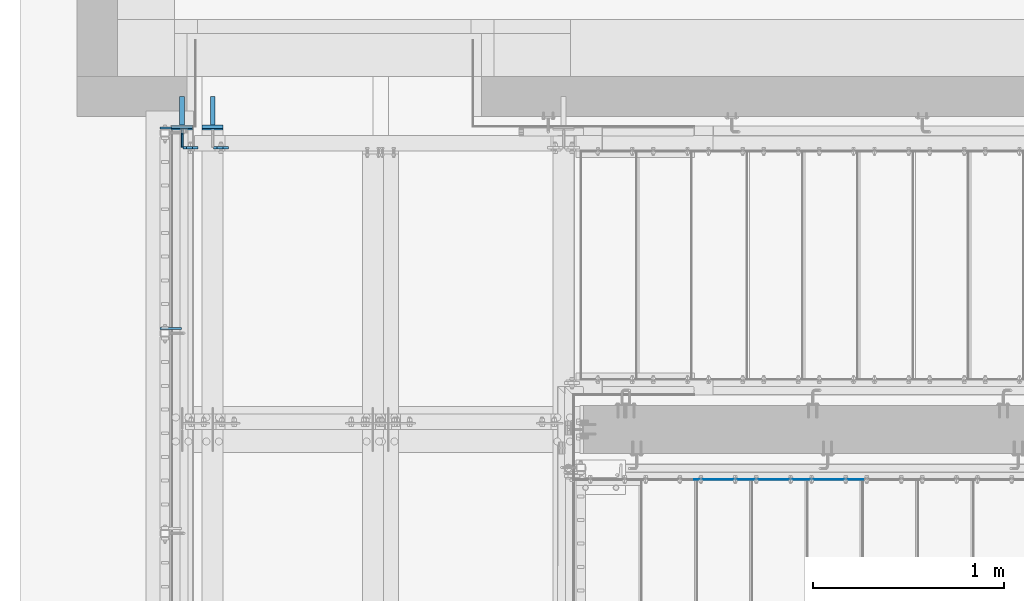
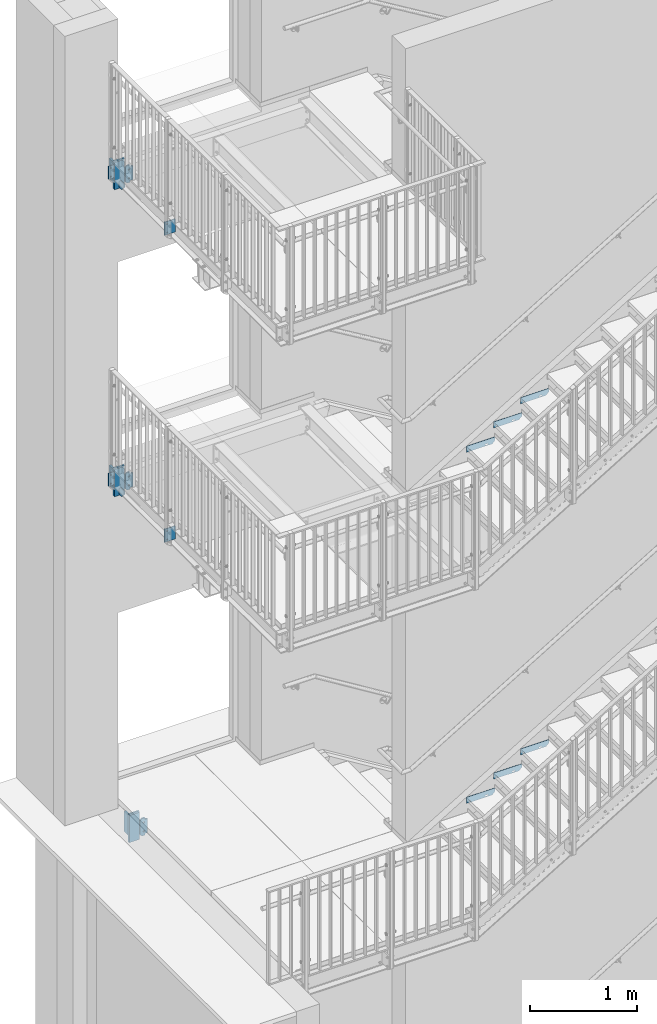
# One storey, part 55 of 410: 21 plates, 45 openings.
"""IFC2X3 building model written with IfcOpenShell, lengths in millimetres."""

from ifc_helpers import new_model, entity, si_unit, converted_unit, point, frame, frame_2d, origin, origin_with_axes, origin_2d_with_axis, place, context, project, spatial, polyline, circle_curve, line_curve, trimmed, segment, composite_curve, circle, outline, extrude, material, layer, layer_set, element, save


model = new_model("IFC2X3")

# Units and contexts
model_context = context("Model", 3, precision=1e-09, world=origin_with_axes())
ifc_project = project(units=[si_unit("LENGTHUNIT", "METRE", prefix="MILLI"), si_unit("AREAUNIT", "SQUARE_METRE"), si_unit("VOLUMEUNIT", "CUBIC_METRE"), converted_unit("PLANEANGLEUNIT", "DEGREE", entity("IfcPlaneAngleMeasure", 0.01745329), si_unit("PLANEANGLEUNIT", "RADIAN"), dimensions=[0, 0, 0, 0, 0, 0, 0])], contexts=[model_context])

# Site, building, storey
site_placement = place(None, origin_with_axes())
site = spatial("IfcSite", under=ifc_project, at=site_placement, Name="mKR Teilneubau & Sanierung BA1 - Ostfildern", CompositionType="ELEMENT")
building_placement = place(site_placement, origin_with_axes())
building = spatial("IfcBuilding", under=site, at=building_placement, Name="Struktur 1", CompositionType="ELEMENT")
storey_placement = place(building_placement, origin_with_axes())
storey = spatial("IfcBuildingStorey", under=building, at=storey_placement, Name="Default Storey", CompositionType="ELEMENT", Elevation=0.0)

# Plate, openings
ifc_material = material(Name="S235JR")
ifc_layer_1 = layer(ifc_material, 3.0)
ifc_layer_set_1 = layer_set([ifc_layer_1], Name="S235JR")
plate_1_placement = place(None, frame((-1125.0, 16719.999999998, 347.826087), z_axis=(0.0, -1.0, 0.0), x_axis=(0.0, 0.0, -1.0)))
plate_1 = element("IfcPlate", 1, at=plate_1_placement, inside=storey, material=ifc_layer_set_1, Name="Grate_Step#2", ObjectType="Grate_Step#2", context=model_context, shape_type="SweptSolid", body=[
    extrude(outline(polyline([(0.0, 0.0), (70.0, 0.0), (70.0, 275.0), (40.0, 305.0), (0.0, 305.0), (0.0, 0.0)])), origin_with_axes(), (0.0, 0.0, 1.0), 3.0),
])
opening_1_placement = place(plate_1_placement, frame((55.0, 215.0, 3.5), z_axis=(0.0, 0.0, -1.0), x_axis=(0.0, 1.0, 0.0)))
element("IfcOpeningElement", 2, at=opening_1_placement, cuts=plate_1, ObjectType="Opening", context=model_context, shape_type="SweptSolid", body=[
    extrude(outline(composite_curve([segment(trimmed(line_curve((-9.5, -7.001), (1.0, 0.0), 19.0), [point((-9.5, -7.001))], [point((9.5, -7.001))], True, "CARTESIAN"), True, "CONTINUOUS"), segment(trimmed(circle_curve(frame_2d((9.5, 0.0), x_axis=(1.0, 0.0)), 7.001), [point((9.5, -7.001))], [point((9.5, 7.001))], True, "CARTESIAN"), True, "CONTINUOUS"), segment(trimmed(line_curve((9.5, 7.001), (-1.0, 0.0), 19.0), [point((9.5, 7.001))], [point((-9.5, 7.001))], True, "CARTESIAN"), True, "CONTINUOUS"), segment(trimmed(circle_curve(frame_2d((-9.5, 0.0), x_axis=(1.0, 0.0)), 7.001), [point((-9.5, 7.001))], [point((-9.5, -7.001))], True, "CARTESIAN"), True, "CONTINUOUS")], self_intersect=False)), origin(), (0.0, 0.0, 1.0), 4.0),
])
opening_2_placement = place(plate_1_placement, frame((55.0, 35.0, 3.5), z_axis=(0.0, 0.0, -1.0), x_axis=(0.0, 1.0, 0.0)))
element("IfcOpeningElement", 3, at=opening_2_placement, cuts=plate_1, ObjectType="Opening", context=model_context, shape_type="SweptSolid", body=[
    extrude(circle(Radius=7.001, at=origin_2d_with_axis()), origin(), (0.0, 0.0, 1.0), 4.0),
])

plate_2_placement = place(None, frame((-835.0, 16719.999999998, 521.7391305), z_axis=(0.0, -1.0, 0.0), x_axis=(0.0, 0.0, -1.0)))
plate_2 = element("IfcPlate", 4, at=plate_2_placement, inside=storey, material=ifc_layer_set_1, Name="Grate_Step#2", ObjectType="Grate_Step#2", context=model_context, shape_type="SweptSolid", body=[
    extrude(outline(polyline([(0.0, 0.0), (70.0, 0.0), (70.0, 275.0), (40.0, 305.0), (0.0, 305.0), (0.0, 0.0)])), origin_with_axes(), (0.0, 0.0, 1.0), 3.0),
])
opening_3_placement = place(plate_2_placement, frame((55.0, 35.0, 3.5), z_axis=(0.0, 0.0, -1.0), x_axis=(0.0, 1.0, 0.0)))
element("IfcOpeningElement", 5, at=opening_3_placement, cuts=plate_2, ObjectType="Opening", context=model_context, shape_type="SweptSolid", body=[
    extrude(circle(Radius=7.001, at=origin_2d_with_axis()), origin(), (0.0, 0.0, 1.0), 4.0),
])
opening_4_placement = place(plate_2_placement, frame((55.0, 215.0, 3.5), z_axis=(0.0, 0.0, -1.0), x_axis=(0.0, 1.0, 0.0)))
element("IfcOpeningElement", 6, at=opening_4_placement, cuts=plate_2, ObjectType="Opening", context=model_context, shape_type="SweptSolid", body=[
    extrude(outline(composite_curve([segment(trimmed(line_curve((-9.5, -7.001), (1.0, 0.0), 19.0), [point((-9.5, -7.001))], [point((9.5, -7.001))], True, "CARTESIAN"), True, "CONTINUOUS"), segment(trimmed(circle_curve(frame_2d((9.5, 0.0), x_axis=(1.0, 0.0)), 7.001), [point((9.5, -7.001))], [point((9.5, 7.001))], True, "CARTESIAN"), True, "CONTINUOUS"), segment(trimmed(line_curve((9.5, 7.001), (-1.0, 0.0), 19.0), [point((9.5, 7.001))], [point((-9.5, 7.001))], True, "CARTESIAN"), True, "CONTINUOUS"), segment(trimmed(circle_curve(frame_2d((-9.5, 0.0), x_axis=(1.0, 0.0)), 7.001), [point((-9.5, 7.001))], [point((-9.5, -7.001))], True, "CARTESIAN"), True, "CONTINUOUS")], self_intersect=False)), origin(), (0.0, 0.0, 1.0), 4.0),
])

plate_3_placement = place(None, frame((-545.0, 16719.999999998, 695.652174), z_axis=(0.0, -1.0, 0.0), x_axis=(0.0, 0.0, -1.0)))
plate_3 = element("IfcPlate", 7, at=plate_3_placement, inside=storey, material=ifc_layer_set_1, Name="Grate_Step#2", ObjectType="Grate_Step#2", context=model_context, shape_type="SweptSolid", body=[
    extrude(outline(polyline([(0.0, 0.0), (70.0, 0.0), (70.0, 275.0), (40.0, 305.0), (0.0, 305.0), (0.0, 0.0)])), origin_with_axes(), (0.0, 0.0, 1.0), 3.0),
])
opening_5_placement = place(plate_3_placement, frame((55.0, 35.0, 3.5), z_axis=(0.0, 0.0, -1.0), x_axis=(0.0, 1.0, 0.0)))
element("IfcOpeningElement", 8, at=opening_5_placement, cuts=plate_3, ObjectType="Opening", context=model_context, shape_type="SweptSolid", body=[
    extrude(circle(Radius=7.001, at=origin_2d_with_axis()), origin(), (0.0, 0.0, 1.0), 4.0),
])
opening_6_placement = place(plate_3_placement, frame((55.0, 215.0, 3.5), z_axis=(0.0, 0.0, -1.0), x_axis=(0.0, 1.0, 0.0)))
element("IfcOpeningElement", 9, at=opening_6_placement, cuts=plate_3, ObjectType="Opening", context=model_context, shape_type="SweptSolid", body=[
    extrude(outline(composite_curve([segment(trimmed(line_curve((-9.5, -7.001), (1.0, 0.0), 19.0), [point((-9.5, -7.001))], [point((9.5, -7.001))], True, "CARTESIAN"), True, "CONTINUOUS"), segment(trimmed(circle_curve(frame_2d((9.5, 0.0), x_axis=(1.0, 0.0)), 7.001), [point((9.5, -7.001))], [point((9.5, 7.001))], True, "CARTESIAN"), True, "CONTINUOUS"), segment(trimmed(line_curve((9.5, 7.001), (-1.0, 0.0), 19.0), [point((9.5, 7.001))], [point((-9.5, 7.001))], True, "CARTESIAN"), True, "CONTINUOUS"), segment(trimmed(circle_curve(frame_2d((-9.5, 0.0), x_axis=(1.0, 0.0)), 7.001), [point((-9.5, 7.001))], [point((-9.5, -7.001))], True, "CARTESIAN"), True, "CONTINUOUS")], self_intersect=False)), origin(), (0.0, 0.0, 1.0), 4.0),
])

plate_4_placement = place(None, frame((-1125.0, 16719.999999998, 4350.0), z_axis=(0.0, -1.0, 0.0), x_axis=(0.0, 0.0, -1.0)))
plate_4 = element("IfcPlate", 10, at=plate_4_placement, inside=storey, material=ifc_layer_set_1, Name="Grate_Step#2", ObjectType="Grate_Step#2", context=model_context, shape_type="SweptSolid", body=[
    extrude(outline(polyline([(0.0, 0.0), (70.0, 0.0), (70.0, 275.0), (40.0, 305.0), (0.0, 305.0), (0.0, 0.0)])), origin_with_axes(), (0.0, 0.0, 1.0), 3.0),
])
opening_7_placement = place(plate_4_placement, frame((55.0, 35.0, 3.5), z_axis=(0.0, 0.0, -1.0), x_axis=(0.0, 1.0, 0.0)))
element("IfcOpeningElement", 11, at=opening_7_placement, cuts=plate_4, ObjectType="Opening", context=model_context, shape_type="SweptSolid", body=[
    extrude(circle(Radius=7.001, at=origin_2d_with_axis()), origin(), (0.0, 0.0, 1.0), 4.0),
])
opening_8_placement = place(plate_4_placement, frame((55.0, 215.0, 3.5), z_axis=(0.0, 0.0, -1.0), x_axis=(0.0, 1.0, 0.0)))
element("IfcOpeningElement", 12, at=opening_8_placement, cuts=plate_4, ObjectType="Opening", context=model_context, shape_type="SweptSolid", body=[
    extrude(outline(composite_curve([segment(trimmed(line_curve((-9.5, -7.001), (1.0, 0.0), 19.0), [point((-9.5, -7.001))], [point((9.5, -7.001))], True, "CARTESIAN"), True, "CONTINUOUS"), segment(trimmed(circle_curve(frame_2d((9.5, 0.0), x_axis=(1.0, 0.0)), 7.001), [point((9.5, -7.001))], [point((9.5, 7.001))], True, "CARTESIAN"), True, "CONTINUOUS"), segment(trimmed(line_curve((9.5, 7.001), (-1.0, 0.0), 19.0), [point((9.5, 7.001))], [point((-9.5, 7.001))], True, "CARTESIAN"), True, "CONTINUOUS"), segment(trimmed(circle_curve(frame_2d((-9.5, 0.0), x_axis=(1.0, 0.0)), 7.001), [point((-9.5, 7.001))], [point((-9.5, -7.001))], True, "CARTESIAN"), True, "CONTINUOUS")], self_intersect=False)), origin(), (0.0, 0.0, 1.0), 4.0),
])

plate_5_placement = place(None, frame((-835.0, 16719.999999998, 4525.0), z_axis=(0.0, -1.0, 0.0), x_axis=(0.0, 0.0, -1.0)))
plate_5 = element("IfcPlate", 13, at=plate_5_placement, inside=storey, material=ifc_layer_set_1, Name="Grate_Step#2", ObjectType="Grate_Step#2", context=model_context, shape_type="SweptSolid", body=[
    extrude(outline(polyline([(0.0, 0.0), (70.0, 0.0), (70.0, 275.0), (40.0, 305.0), (0.0, 305.0), (0.0, 0.0)])), origin_with_axes(), (0.0, 0.0, 1.0), 3.0),
])
opening_9_placement = place(plate_5_placement, frame((55.0, 35.0, 3.5), z_axis=(0.0, 0.0, -1.0), x_axis=(0.0, 1.0, 0.0)))
element("IfcOpeningElement", 14, at=opening_9_placement, cuts=plate_5, ObjectType="Opening", context=model_context, shape_type="SweptSolid", body=[
    extrude(circle(Radius=7.001, at=origin_2d_with_axis()), origin(), (0.0, 0.0, 1.0), 4.0),
])
opening_10_placement = place(plate_5_placement, frame((55.0, 215.0, 3.5), z_axis=(0.0, 0.0, -1.0), x_axis=(0.0, 1.0, 0.0)))
element("IfcOpeningElement", 15, at=opening_10_placement, cuts=plate_5, ObjectType="Opening", context=model_context, shape_type="SweptSolid", body=[
    extrude(outline(composite_curve([segment(trimmed(line_curve((-9.5, -7.001), (1.0, 0.0), 19.0), [point((-9.5, -7.001))], [point((9.5, -7.001))], True, "CARTESIAN"), True, "CONTINUOUS"), segment(trimmed(circle_curve(frame_2d((9.5, 0.0), x_axis=(1.0, 0.0)), 7.001), [point((9.5, -7.001))], [point((9.5, 7.001))], True, "CARTESIAN"), True, "CONTINUOUS"), segment(trimmed(line_curve((9.5, 7.001), (-1.0, 0.0), 19.0), [point((9.5, 7.001))], [point((-9.5, 7.001))], True, "CARTESIAN"), True, "CONTINUOUS"), segment(trimmed(circle_curve(frame_2d((-9.5, 0.0), x_axis=(1.0, 0.0)), 7.001), [point((-9.5, 7.001))], [point((-9.5, -7.001))], True, "CARTESIAN"), True, "CONTINUOUS")], self_intersect=False)), origin(), (0.0, 0.0, 1.0), 4.0),
])

plate_6_placement = place(None, frame((-545.0, 16719.999999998, 4700.0), z_axis=(0.0, -1.0, 0.0), x_axis=(0.0, 0.0, -1.0)))
plate_6 = element("IfcPlate", 16, at=plate_6_placement, inside=storey, material=ifc_layer_set_1, Name="Grate_Step#2", ObjectType="Grate_Step#2", context=model_context, shape_type="SweptSolid", body=[
    extrude(outline(polyline([(0.0, 0.0), (70.0, 0.0), (70.0, 275.0), (40.0, 305.0), (0.0, 305.0), (0.0, 0.0)])), origin_with_axes(), (0.0, 0.0, 1.0), 3.0),
])
opening_11_placement = place(plate_6_placement, frame((55.0, 35.0, 3.5), z_axis=(0.0, 0.0, -1.0), x_axis=(0.0, 1.0, 0.0)))
element("IfcOpeningElement", 17, at=opening_11_placement, cuts=plate_6, ObjectType="Opening", context=model_context, shape_type="SweptSolid", body=[
    extrude(circle(Radius=7.001, at=origin_2d_with_axis()), origin(), (0.0, 0.0, 1.0), 4.0),
])
opening_12_placement = place(plate_6_placement, frame((55.0, 215.0, 3.5), z_axis=(0.0, 0.0, -1.0), x_axis=(0.0, 1.0, 0.0)))
element("IfcOpeningElement", 18, at=opening_12_placement, cuts=plate_6, ObjectType="Opening", context=model_context, shape_type="SweptSolid", body=[
    extrude(outline(composite_curve([segment(trimmed(line_curve((-9.5, -7.001), (1.0, 0.0), 19.0), [point((-9.5, -7.001))], [point((9.5, -7.001))], True, "CARTESIAN"), True, "CONTINUOUS"), segment(trimmed(circle_curve(frame_2d((9.5, 0.0), x_axis=(1.0, 0.0)), 7.001), [point((9.5, -7.001))], [point((9.5, 7.001))], True, "CARTESIAN"), True, "CONTINUOUS"), segment(trimmed(line_curve((9.5, 7.001), (-1.0, 0.0), 19.0), [point((9.5, 7.001))], [point((-9.5, 7.001))], True, "CARTESIAN"), True, "CONTINUOUS"), segment(trimmed(circle_curve(frame_2d((-9.5, 0.0), x_axis=(1.0, 0.0)), 7.001), [point((-9.5, 7.001))], [point((-9.5, -7.001))], True, "CARTESIAN"), True, "CONTINUOUS")], self_intersect=False)), origin(), (0.0, 0.0, 1.0), 4.0),
])

# Plate, opening
ifc_layer_2 = layer(ifc_material, 25.0)
ifc_layer_set_2 = layer_set([ifc_layer_2], Name="S235JR")
plate_7_placement = place(None, frame((-3809.9985317, 18574.99935555, 7280.0), z_axis=(0.0, -1.0, 0.0), x_axis=(1.0, 0.0, 0.0)))
plate_7 = element("IfcPlate", 19, at=plate_7_placement, inside=storey, material=ifc_layer_set_2, Name="-", ObjectType="-", context=model_context, shape_type="SweptSolid", body=[
    extrude(outline(polyline([(-55.0, -160.0), (55.0, -160.0), (55.0, 160.0), (-55.0, 160.0), (-55.0, -160.0)])), origin_with_axes(), (0.0, 0.0, 1.0), 25.0),
])
opening_13_placement = place(plate_7_placement, frame((-55.001, 160.0, 25.0), z_axis=(1.0, 0.0, 0.0), x_axis=(0.0, -1.0, 0.0)))
element("IfcOpeningElement", 20, at=opening_13_placement, cuts=plate_7, ObjectType="Opening", context=model_context, shape_type="SweptSolid", body=[
    extrude(outline(polyline([(0.0, 0.0), (9.0, 0.0), (0.0, 9.0), (0.0, 0.0)])), origin(), (0.0, 0.0, 1.0), 110.022),
])

# Plate
plate_8_placement = place(None, frame((-3822.4985317, 18650.000177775, 7245.0), z_axis=(1.0, 0.0, 0.0), x_axis=(0.0, 1.0, 0.0)))
element("IfcPlate", 21, at=plate_8_placement, inside=storey, material=ifc_layer_set_2, Name="-", ObjectType="-", context=model_context, shape_type="SweptSolid", body=[
    extrude(outline(polyline([(-75.0, -115.0), (75.0, -115.0), (75.0, 115.0), (-75.0, 115.0), (-75.0, -115.0)])), origin_with_axes(), (0.0, 0.0, 1.0), 25.0),
])

# Plate, openings
ifc_layer_3 = layer(ifc_material, 10.0)
ifc_layer_set_3 = layer_set([ifc_layer_3], Name="S235JR")
plate_9_placement = place(None, frame((-3814.9985317, 18504.99935555, 7175.0), z_axis=(1.0, 0.0, 0.0), x_axis=(0.0, 1.0, 0.0)))
plate_9 = element("IfcPlate", 22, at=plate_9_placement, inside=storey, material=ifc_layer_set_3, Name="-", ObjectType="-", context=model_context, shape_type="SweptSolid", body=[
    extrude(outline(polyline([(-45.0, -45.0), (45.0, -45.0), (45.0, 45.0), (-45.0, 45.0), (-45.0, -45.0)])), origin_with_axes(), (0.0, 0.0, 1.0), 10.0),
])
opening_14_placement = place(plate_9_placement, frame((0.0, 0.0, -0.01), z_axis=(0.0, 0.0, 1.0), x_axis=(1.0, 0.0, 0.0)))
element("IfcOpeningElement", 23, at=opening_14_placement, cuts=plate_9, ObjectType="Opening", context=model_context, shape_type="SweptSolid", body=[
    extrude(outline(polyline([(-45.0, -45.0), (5.0, -45.0), (-45.0, 5.0), (-45.0, -45.0)])), origin(), (0.0, 0.0, 1.0), 10.02),
])
opening_15_placement = place(plate_9_placement, frame((0.0, 0.0, -0.01), z_axis=(0.0, 0.0, 1.0), x_axis=(1.0, 0.0, 0.0)))
element("IfcOpeningElement", 24, at=opening_15_placement, cuts=plate_9, ObjectType="Opening", context=model_context, shape_type="SweptSolid", body=[
    extrude(outline(polyline([(45.0, 45.0), (25.0, 45.0), (45.0, 25.0), (45.0, 45.0)])), origin(), (0.0, 0.0, 1.0), 10.02),
])

ifc_layer_4 = layer(ifc_material, 15.0)
ifc_layer_set_4 = layer_set([ifc_layer_4], Name="S235JR")
plate_10_placement = place(None, frame((-3806.0485317, 18448.999999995, 7429.300000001), z_axis=(0.0, 1.0, 0.0), x_axis=(1.0, 0.0, 0.0)))
plate_10 = element("IfcPlate", 25, at=plate_10_placement, inside=storey, material=ifc_layer_set_4, Name="LugPlate#1", ObjectType="LugPlate#1", context=model_context, shape_type="SweptSolid", body=[
    extrude(outline(polyline([(0.0, 0.0), (80.0, 0.0), (80.0, 198.6), (0.0, 198.6), (0.0, 0.0)])), origin_with_axes(), (0.0, 0.0, 1.0), 15.0),
])
opening_16_placement = place(plate_10_placement, frame((0.0, 0.0, -0.01), z_axis=(0.0, 0.0, 1.0), x_axis=(1.0, 0.0, 0.0)))
element("IfcOpeningElement", 26, at=opening_16_placement, cuts=plate_10, ObjectType="Opening", context=model_context, shape_type="SweptSolid", body=[
    extrude(outline(polyline([(0.0, 0.0), (20.0, 0.0), (0.0, 20.0), (0.0, 0.0)])), origin(), (0.0, 0.0, 1.0), 15.02),
])
opening_17_placement = place(plate_10_placement, frame((0.0, 0.0, -0.01), z_axis=(0.0, 0.0, 1.0), x_axis=(1.0, 0.0, 0.0)))
element("IfcOpeningElement", 27, at=opening_17_placement, cuts=plate_10, ObjectType="Opening", context=model_context, shape_type="SweptSolid", body=[
    extrude(outline(polyline([(0.0, 198.6), (0.0, 178.6), (20.0, 198.6), (0.0, 198.6)])), origin(), (0.0, 0.0, 1.0), 15.02),
])
opening_18_placement = place(plate_10_placement, frame((0.0, 0.0, 15.1), z_axis=(0.0, 0.0, -1.0), x_axis=(0.0, -1.0, 0.0)))
element("IfcOpeningElement", 28, at=opening_18_placement, cuts=plate_10, ObjectType="Opening", context=model_context, shape_type="SweptSolid", body=[
    extrude(outline(polyline([(-209.301, -99.857709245), (-179.299, -99.857709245), (-179.299, -51.049), (-209.301, -51.049), (-209.301, -99.857709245)])), origin(), (0.0, 0.0, 1.0), 15.2),
])
opening_19_placement = place(plate_10_placement, frame((0.0, 0.0, 15.1), z_axis=(0.0, 0.0, -1.0), x_axis=(0.0, -1.0, 0.0)))
element("IfcOpeningElement", 29, at=opening_19_placement, cuts=plate_10, ObjectType="Opening", context=model_context, shape_type="SweptSolid", body=[
    extrude(outline(polyline([(-19.301, -95.314579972), (10.700999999, -95.314579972), (10.700999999, -51.049), (-19.301, -51.049), (-19.301, -95.314579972)])), origin(), (0.0, 0.0, 1.0), 15.2),
])
opening_20_placement = place(plate_10_placement, frame((30.999, 149.300000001, 15.5), z_axis=(0.0, 0.0, 1.0), x_axis=(1.0, 0.0, 0.0)))
element("IfcOpeningElement", 30, at=opening_20_placement, cuts=plate_10, ObjectType="Opening", context=model_context, shape_type="SweptSolid", body=[
    extrude(circle(Radius=9.001, at=frame_2d((9.001, 0.0), x_axis=(1.0, 0.0))), origin(), (0.0, 0.0, -1.0), 16.0),
])
opening_21_placement = place(plate_10_placement, frame((30.999, 49.300000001, 15.5), z_axis=(0.0, 0.0, 1.0), x_axis=(1.0, 0.0, 0.0)))
element("IfcOpeningElement", 31, at=opening_21_placement, cuts=plate_10, ObjectType="Opening", context=model_context, shape_type="SweptSolid", body=[
    extrude(circle(Radius=9.001, at=frame_2d((9.001, 0.0), x_axis=(1.0, 0.0))), origin(), (0.0, 0.0, -1.0), 16.0),
])

plate_11_placement = place(None, frame((-3806.048531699, 18448.999999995, 3929.300000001), z_axis=(0.0, 1.0, 0.0), x_axis=(1.0, 0.0, 0.0)))
plate_11 = element("IfcPlate", 32, at=plate_11_placement, inside=storey, material=ifc_layer_set_4, Name="LugPlate#1", ObjectType="LugPlate#1", context=model_context, shape_type="SweptSolid", body=[
    extrude(outline(polyline([(0.0, 0.0), (80.0, 0.0), (80.0, 198.6), (0.0, 198.6), (0.0, 0.0)])), origin_with_axes(), (0.0, 0.0, 1.0), 15.0),
])
opening_22_placement = place(plate_11_placement, frame((0.0, 0.0, -0.01), z_axis=(0.0, 0.0, 1.0), x_axis=(1.0, 0.0, 0.0)))
element("IfcOpeningElement", 33, at=opening_22_placement, cuts=plate_11, ObjectType="Opening", context=model_context, shape_type="SweptSolid", body=[
    extrude(outline(polyline([(0.0, 0.0), (20.0, 0.0), (0.0, 20.0), (0.0, 0.0)])), origin(), (0.0, 0.0, 1.0), 15.02),
])
opening_23_placement = place(plate_11_placement, frame((0.0, 0.0, -0.01), z_axis=(0.0, 0.0, 1.0), x_axis=(1.0, 0.0, 0.0)))
element("IfcOpeningElement", 34, at=opening_23_placement, cuts=plate_11, ObjectType="Opening", context=model_context, shape_type="SweptSolid", body=[
    extrude(outline(polyline([(0.0, 198.6), (0.0, 178.6), (20.0, 198.6), (0.0, 198.6)])), origin(), (0.0, 0.0, 1.0), 15.02),
])
opening_24_placement = place(plate_11_placement, frame((0.0, 0.0, 15.1), z_axis=(0.0, 0.0, -1.0), x_axis=(0.0, -1.0, 0.0)))
element("IfcOpeningElement", 35, at=opening_24_placement, cuts=plate_11, ObjectType="Opening", context=model_context, shape_type="SweptSolid", body=[
    extrude(outline(polyline([(-209.301, -99.857709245), (-179.299, -99.857709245), (-179.299, -51.049), (-209.301, -51.049), (-209.301, -99.857709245)])), origin(), (0.0, 0.0, 1.0), 15.2),
])
opening_25_placement = place(plate_11_placement, frame((0.0, 0.0, 15.1), z_axis=(0.0, 0.0, -1.0), x_axis=(0.0, -1.0, 0.0)))
element("IfcOpeningElement", 36, at=opening_25_placement, cuts=plate_11, ObjectType="Opening", context=model_context, shape_type="SweptSolid", body=[
    extrude(outline(polyline([(-19.301, -95.314579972), (10.700999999, -95.314579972), (10.700999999, -51.049), (-19.301, -51.049), (-19.301, -95.314579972)])), origin(), (0.0, 0.0, 1.0), 15.2),
])
opening_26_placement = place(plate_11_placement, frame((30.999, 149.300000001, 15.5), z_axis=(0.0, 0.0, 1.0), x_axis=(1.0, 0.0, 0.0)))
element("IfcOpeningElement", 37, at=opening_26_placement, cuts=plate_11, ObjectType="Opening", context=model_context, shape_type="SweptSolid", body=[
    extrude(circle(Radius=9.001, at=frame_2d((9.001, 0.0), x_axis=(1.0, 0.0))), origin(), (0.0, 0.0, -1.0), 16.0),
])
opening_27_placement = place(plate_11_placement, frame((30.999, 49.300000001, 15.5), z_axis=(0.0, 0.0, 1.0), x_axis=(1.0, 0.0, 0.0)))
element("IfcOpeningElement", 38, at=opening_27_placement, cuts=plate_11, ObjectType="Opening", context=model_context, shape_type="SweptSolid", body=[
    extrude(circle(Radius=9.001, at=frame_2d((9.001, 0.0), x_axis=(1.0, 0.0))), origin(), (0.0, 0.0, -1.0), 16.0),
])

plate_12_placement = place(None, frame((-3646.0485317, 18448.999999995, -70.7), z_axis=(0.0, 1.0, 0.0), x_axis=(1.0, 0.0, 0.0)))
plate_12 = element("IfcPlate", 39, at=plate_12_placement, inside=storey, material=ifc_layer_set_4, Name="LugPlate#1", ObjectType="LugPlate#1", context=model_context, shape_type="SweptSolid", body=[
    extrude(outline(polyline([(0.0, 0.0), (80.0, 0.0), (80.0, 198.6), (0.0, 198.6), (0.0, 0.0)])), origin_with_axes(), (0.0, 0.0, 1.0), 15.0),
])
opening_28_placement = place(plate_12_placement, frame((0.0, 0.0, -0.01), z_axis=(0.0, 0.0, 1.0), x_axis=(1.0, 0.0, 0.0)))
element("IfcOpeningElement", 40, at=opening_28_placement, cuts=plate_12, ObjectType="Opening", context=model_context, shape_type="SweptSolid", body=[
    extrude(outline(polyline([(0.0, 0.0), (20.0, 0.0), (0.0, 20.0), (0.0, 0.0)])), origin(), (0.0, 0.0, 1.0), 15.02),
])
opening_29_placement = place(plate_12_placement, frame((0.0, 0.0, -0.01), z_axis=(0.0, 0.0, 1.0), x_axis=(1.0, 0.0, 0.0)))
element("IfcOpeningElement", 41, at=opening_29_placement, cuts=plate_12, ObjectType="Opening", context=model_context, shape_type="SweptSolid", body=[
    extrude(outline(polyline([(0.0, 198.6), (0.0, 178.6), (20.0, 198.6), (0.0, 198.6)])), origin(), (0.0, 0.0, 1.0), 15.02),
])
opening_30_placement = place(plate_12_placement, frame((0.0, 0.0, 15.1), z_axis=(0.0, 0.0, -1.0), x_axis=(0.0, -1.0, 0.0)))
element("IfcOpeningElement", 42, at=opening_30_placement, cuts=plate_12, ObjectType="Opening", context=model_context, shape_type="SweptSolid", body=[
    extrude(outline(polyline([(-209.301, -99.857709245), (-179.299, -99.857709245), (-179.299, -51.049), (-209.301, -51.049), (-209.301, -99.857709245)])), origin(), (0.0, 0.0, 1.0), 15.2),
])
opening_31_placement = place(plate_12_placement, frame((0.0, 0.0, 15.1), z_axis=(0.0, 0.0, -1.0), x_axis=(0.0, -1.0, 0.0)))
element("IfcOpeningElement", 43, at=opening_31_placement, cuts=plate_12, ObjectType="Opening", context=model_context, shape_type="SweptSolid", body=[
    extrude(outline(polyline([(-19.301, -95.314579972), (10.700999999, -95.314579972), (10.700999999, -51.049), (-19.301, -51.049), (-19.301, -95.314579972)])), origin(), (0.0, 0.0, 1.0), 15.2),
])
opening_32_placement = place(plate_12_placement, frame((30.999, 149.300000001, 15.5), z_axis=(0.0, 0.0, 1.0), x_axis=(1.0, 0.0, 0.0)))
element("IfcOpeningElement", 44, at=opening_32_placement, cuts=plate_12, ObjectType="Opening", context=model_context, shape_type="SweptSolid", body=[
    extrude(circle(Radius=9.001, at=frame_2d((9.001, 0.0), x_axis=(1.0, 0.0))), origin(), (0.0, 0.0, -1.0), 16.0),
])
opening_33_placement = place(plate_12_placement, frame((30.999, 49.300000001, 15.5), z_axis=(0.0, 0.0, 1.0), x_axis=(1.0, 0.0, 0.0)))
element("IfcOpeningElement", 45, at=opening_33_placement, cuts=plate_12, ObjectType="Opening", context=model_context, shape_type="SweptSolid", body=[
    extrude(circle(Radius=9.001, at=frame_2d((9.001, 0.0), x_axis=(1.0, 0.0))), origin(), (0.0, 0.0, -1.0), 16.0),
])

plate_13_placement = place(None, frame((-3868.9485317, 17504.999999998, 3830.0), z_axis=(0.0, 1.0, 0.0), x_axis=(-1.0, 0.0, 0.0)))
plate_13 = element("IfcPlate", 46, at=plate_13_placement, inside=storey, material=ifc_layer_set_3, Name="-", ObjectType="-", context=model_context, shape_type="SweptSolid", body=[
    extrude(outline(polyline([(-56.0, -75.0), (56.0, -75.0), (56.0, 75.0), (-56.0, 75.0), (-56.0, -75.0)])), origin_with_axes(), (0.0, 0.0, 1.0), 10.0),
])
opening_34_placement = place(plate_13_placement, frame((31.0, 0.0, -0.5), z_axis=(0.0, 0.0, 1.0), x_axis=(1.0, 0.0, 0.0)))
element("IfcOpeningElement", 47, at=opening_34_placement, cuts=plate_13, ObjectType="Opening", context=model_context, shape_type="SweptSolid", body=[
    extrude(circle(Radius=7.001, at=frame_2d((0.0, 50.0), x_axis=(1.0, 0.0))), origin(), (0.0, 0.0, 1.0), 11.0),
])
opening_35_placement = place(plate_13_placement, frame((31.0, 0.0, -0.5), z_axis=(0.0, 0.0, 1.0), x_axis=(1.0, 0.0, 0.0)))
element("IfcOpeningElement", 48, at=opening_35_placement, cuts=plate_13, ObjectType="Opening", context=model_context, shape_type="SweptSolid", body=[
    extrude(circle(Radius=7.001, at=frame_2d((0.0, -50.0), x_axis=(1.0, 0.0))), origin(), (0.0, 0.0, 1.0), 11.0),
])

plate_14_placement = place(None, frame((-3894.9735317, 18554.999999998, 3830.0), z_axis=(0.0, 1.0, 0.0), x_axis=(-1.0, 0.0, 0.0)))
plate_14 = element("IfcPlate", 49, at=plate_14_placement, inside=storey, material=ifc_layer_set_3, Name="-", ObjectType="-", context=model_context, shape_type="SweptSolid", body=[
    extrude(outline(polyline([(-29.975, -75.0), (29.975, -75.0), (29.975, 75.0), (-29.975, 75.0), (-29.975, -75.0)])), origin_with_axes(), (0.0, 0.0, 1.0), 10.0),
])
opening_36_placement = place(plate_14_placement, frame((4.975, 0.0, -0.5), z_axis=(0.0, 0.0, 1.0), x_axis=(1.0, 0.0, 0.0)))
element("IfcOpeningElement", 50, at=opening_36_placement, cuts=plate_14, ObjectType="Opening", context=model_context, shape_type="SweptSolid", body=[
    extrude(circle(Radius=7.001, at=frame_2d((0.0, 50.0), x_axis=(1.0, 0.0))), origin(), (0.0, 0.0, 1.0), 11.0),
])
opening_37_placement = place(plate_14_placement, frame((4.975, 0.0, -0.5), z_axis=(0.0, 0.0, 1.0), x_axis=(1.0, 0.0, 0.0)))
element("IfcOpeningElement", 51, at=opening_37_placement, cuts=plate_14, ObjectType="Opening", context=model_context, shape_type="SweptSolid", body=[
    extrude(circle(Radius=7.001, at=frame_2d((0.0, -50.0), x_axis=(1.0, 0.0))), origin(), (0.0, 0.0, 1.0), 11.0),
])

plate_15_placement = place(None, frame((-3868.9485317, 17504.999999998, 7330.0), z_axis=(0.0, 1.0, 0.0), x_axis=(-1.0, 0.0, 0.0)))
plate_15 = element("IfcPlate", 52, at=plate_15_placement, inside=storey, material=ifc_layer_set_3, Name="-", ObjectType="-", context=model_context, shape_type="SweptSolid", body=[
    extrude(outline(polyline([(-56.0, -75.0), (56.0, -75.0), (56.0, 75.0), (-56.0, 75.0), (-56.0, -75.0)])), origin_with_axes(), (0.0, 0.0, 1.0), 10.0),
])
opening_38_placement = place(plate_15_placement, frame((31.0, 0.0, -0.5), z_axis=(0.0, 0.0, 1.0), x_axis=(1.0, 0.0, 0.0)))
element("IfcOpeningElement", 53, at=opening_38_placement, cuts=plate_15, ObjectType="Opening", context=model_context, shape_type="SweptSolid", body=[
    extrude(circle(Radius=7.001, at=frame_2d((0.0, 50.0), x_axis=(1.0, 0.0))), origin(), (0.0, 0.0, 1.0), 11.0),
])
opening_39_placement = place(plate_15_placement, frame((31.0, 0.0, -0.5), z_axis=(0.0, 0.0, 1.0), x_axis=(1.0, 0.0, 0.0)))
element("IfcOpeningElement", 54, at=opening_39_placement, cuts=plate_15, ObjectType="Opening", context=model_context, shape_type="SweptSolid", body=[
    extrude(circle(Radius=7.001, at=frame_2d((0.0, -50.0), x_axis=(1.0, 0.0))), origin(), (0.0, 0.0, 1.0), 11.0),
])

plate_16_placement = place(None, frame((-3894.9735317, 18554.999999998, 7330.0), z_axis=(0.0, 1.0, 0.0), x_axis=(-1.0, 0.0, 0.0)))
plate_16 = element("IfcPlate", 55, at=plate_16_placement, inside=storey, material=ifc_layer_set_3, Name="-", ObjectType="-", context=model_context, shape_type="SweptSolid", body=[
    extrude(outline(polyline([(-29.975, -75.0), (29.975, -75.0), (29.975, 75.0), (-29.975, 75.0), (-29.975, -75.0)])), origin_with_axes(), (0.0, 0.0, 1.0), 10.0),
])
opening_40_placement = place(plate_16_placement, frame((4.975, 0.0, -0.5), z_axis=(0.0, 0.0, 1.0), x_axis=(1.0, 0.0, 0.0)))
element("IfcOpeningElement", 56, at=opening_40_placement, cuts=plate_16, ObjectType="Opening", context=model_context, shape_type="SweptSolid", body=[
    extrude(circle(Radius=7.001, at=frame_2d((0.0, 50.0), x_axis=(1.0, 0.0))), origin(), (0.0, 0.0, 1.0), 11.0),
])
opening_41_placement = place(plate_16_placement, frame((4.975, 0.0, -0.5), z_axis=(0.0, 0.0, 1.0), x_axis=(1.0, 0.0, 0.0)))
element("IfcOpeningElement", 57, at=opening_41_placement, cuts=plate_16, ObjectType="Opening", context=model_context, shape_type="SweptSolid", body=[
    extrude(circle(Radius=7.001, at=frame_2d((0.0, -50.0), x_axis=(1.0, 0.0))), origin(), (0.0, 0.0, 1.0), 11.0),
])

# Plate, opening
plate_17_placement = place(None, frame((-3809.9985317, 18574.99935555, 3780.0), z_axis=(0.0, -1.0, 0.0), x_axis=(1.0, 0.0, 0.0)))
plate_17 = element("IfcPlate", 58, at=plate_17_placement, inside=storey, material=ifc_layer_set_2, Name="-", ObjectType="-", context=model_context, shape_type="SweptSolid", body=[
    extrude(outline(polyline([(-55.0, -160.0), (55.0, -160.0), (55.0, 160.0), (-55.0, 160.0), (-55.0, -160.0)])), origin_with_axes(), (0.0, 0.0, 1.0), 25.0),
])
opening_42_placement = place(plate_17_placement, frame((-55.001, 160.0, 25.0), z_axis=(1.0, 0.0, 0.0), x_axis=(0.0, -1.0, 0.0)))
element("IfcOpeningElement", 59, at=opening_42_placement, cuts=plate_17, ObjectType="Opening", context=model_context, shape_type="SweptSolid", body=[
    extrude(outline(polyline([(0.0, 0.0), (9.0, 0.0), (0.0, 9.0), (0.0, 0.0)])), origin(), (0.0, 0.0, 1.0), 110.022),
])

# Plate
plate_18_placement = place(None, frame((-3822.4985317, 18650.000177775, 3745.0), z_axis=(1.0, 0.0, 0.0), x_axis=(0.0, 1.0, 0.0)))
element("IfcPlate", 60, at=plate_18_placement, inside=storey, material=ifc_layer_set_2, Name="-", ObjectType="-", context=model_context, shape_type="SweptSolid", body=[
    extrude(outline(polyline([(-75.0, -115.0), (75.0, -115.0), (75.0, 115.0), (-75.0, 115.0), (-75.0, -115.0)])), origin_with_axes(), (0.0, 0.0, 1.0), 25.0),
])

# Plate, openings
plate_19_placement = place(None, frame((-3814.9985317, 18504.99935555, 3675.0), z_axis=(1.0, 0.0, 0.0), x_axis=(0.0, 1.0, 0.0)))
plate_19 = element("IfcPlate", 61, at=plate_19_placement, inside=storey, material=ifc_layer_set_3, Name="-", ObjectType="-", context=model_context, shape_type="SweptSolid", body=[
    extrude(outline(polyline([(-45.0, -45.0), (45.0, -45.0), (45.0, 45.0), (-45.0, 45.0), (-45.0, -45.0)])), origin_with_axes(), (0.0, 0.0, 1.0), 10.0),
])
opening_43_placement = place(plate_19_placement, frame((0.0, 0.0, -0.01), z_axis=(0.0, 0.0, 1.0), x_axis=(1.0, 0.0, 0.0)))
element("IfcOpeningElement", 62, at=opening_43_placement, cuts=plate_19, ObjectType="Opening", context=model_context, shape_type="SweptSolid", body=[
    extrude(outline(polyline([(-45.0, -45.0), (5.0, -45.0), (-45.0, 5.0), (-45.0, -45.0)])), origin(), (0.0, 0.0, 1.0), 10.02),
])
opening_44_placement = place(plate_19_placement, frame((0.0, 0.0, -0.01), z_axis=(0.0, 0.0, 1.0), x_axis=(1.0, 0.0, 0.0)))
element("IfcOpeningElement", 63, at=opening_44_placement, cuts=plate_19, ObjectType="Opening", context=model_context, shape_type="SweptSolid", body=[
    extrude(outline(polyline([(45.0, 45.0), (25.0, 45.0), (45.0, 25.0), (45.0, 45.0)])), origin(), (0.0, 0.0, 1.0), 10.02),
])

# Plate, opening
plate_20_placement = place(None, frame((-3649.9985317, 18574.99935555, -220.0), z_axis=(0.0, -1.0, 0.0), x_axis=(1.0, 0.0, 0.0)))
plate_20 = element("IfcPlate", 64, at=plate_20_placement, inside=storey, material=ifc_layer_set_2, Name="-", ObjectType="-", context=model_context, shape_type="SweptSolid", body=[
    extrude(outline(polyline([(-55.0, -160.0), (55.0, -160.0), (55.0, 160.0), (-55.0, 160.0), (-55.0, -160.0)])), origin_with_axes(), (0.0, 0.0, 1.0), 25.0),
])
opening_45_placement = place(plate_20_placement, frame((-55.001, 160.0, 25.0), z_axis=(1.0, 0.0, 0.0), x_axis=(0.0, -1.0, 0.0)))
element("IfcOpeningElement", 65, at=opening_45_placement, cuts=plate_20, ObjectType="Opening", context=model_context, shape_type="SweptSolid", body=[
    extrude(outline(polyline([(0.0, 0.0), (9.0, 0.0), (0.0, 9.0), (0.0, 0.0)])), origin(), (0.0, 0.0, 1.0), 110.022),
])

# Plate
plate_21_placement = place(None, frame((-3662.4985317, 18650.000177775, -255.0), z_axis=(1.0, 0.0, 0.0), x_axis=(0.0, 1.0, 0.0)))
element("IfcPlate", 66, at=plate_21_placement, inside=storey, material=ifc_layer_set_2, Name="-", ObjectType="-", context=model_context, shape_type="SweptSolid", body=[
    extrude(outline(polyline([(-75.0, -115.0), (75.0, -115.0), (75.0, 115.0), (-75.0, 115.0), (-75.0, -115.0)])), origin_with_axes(), (0.0, 0.0, 1.0), 25.0),
])

save(model, "model.ifc")
